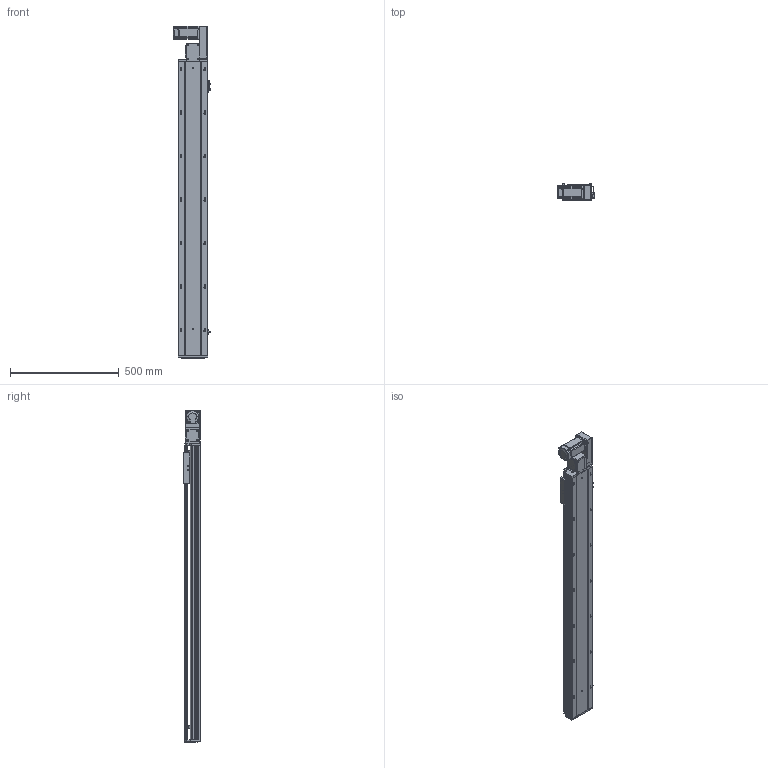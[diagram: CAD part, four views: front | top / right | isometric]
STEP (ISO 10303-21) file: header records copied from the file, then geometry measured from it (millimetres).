
FILE_DESCRIPTION (( 'STEP AP203' ), '1' );
FILE_NAME ('RY140-T-300-RK.SLDASM_1100.step', '2021-03-01T06:45:57', ( '盈信电脑' ), ( '东莞市道滘镇水果街19号' ), 'SwSTEP 2.0', 'SolidWorks 2012', '' );
FILE_SCHEMA (( 'CONFIG_CONTROL_DESIGN' ));
Length unit declared in the file: millimetre
Products named in the file (17): RY140-T-300-RK.SLDASM_1100; RY120-T主同步轮轴承压盖; RY140-T萇儂假蚾啣; RY120-T蹟翐M4; 15; RY140-T翋肮祭謫盓傅釱; RY140-T萇儂欶; RY140-T翋肮謫裔啣; 滅袉蝶18-10; RY120-T肮祭湍揤踡輸2; RY120-T肮祭湍揤踡輸1; RY120外置感应片(140共用）; RY140肮祭謫臏賑輸; RY140綴裔啣; RY140-T-300-DR倰第奻裔啣_1100; 覜茼ん672; RY140-T-300-DR倰第菁釱_1100
Assembly tree (22 placements, depth 2):
  RY140-T-300-RK.SLDASM_1100
    RY140-T-300-DR倰第菁釱_1100
    RY140肮祭謫臏賑輸
    RY140-T-300-DR倰第奻裔啣_1100
    RY140綴裔啣
    覜茼ん672  x3
    RY120外置感应片(140共用）
    RY120-T肮祭湍揤踡輸2
    RY120-T肮祭湍揤踡輸1
    RY140-T翋肮祭謫盓傅釱
    滅袉蝶18-10  x2
    RY140-T翋肮謫裔啣
    RY140-T萇儂欶
    RY140-T萇儂假蚾啣
    RY120-T蹟翐M4  x4
    15
    RY120-T主同步轮轴承压盖
Bounding box: 170.7 x 78 x 1526.5 mm (x, y, z)
Volume: 4237440 mm3; surface area: 1621764.8 mm2
Topology: 22 solids, 22 shells, 2679 faces, 7317 edges, 4688 vertices
Faces by surface type: plane 1381, cylinder 972, cone 226, bspline 100
Entity records: 84366 total; most frequent: CARTESIAN_POINT 20543, ORIENTED_EDGE 13106, DIRECTION 12493, EDGE_CURVE 6553, VERTEX_POINT 4287, LINE 4209, VECTOR 4209, AXIS2_PLACEMENT_3D 4142
